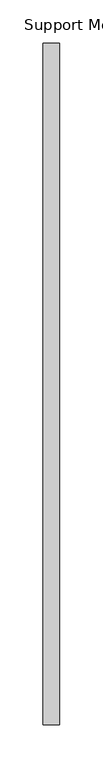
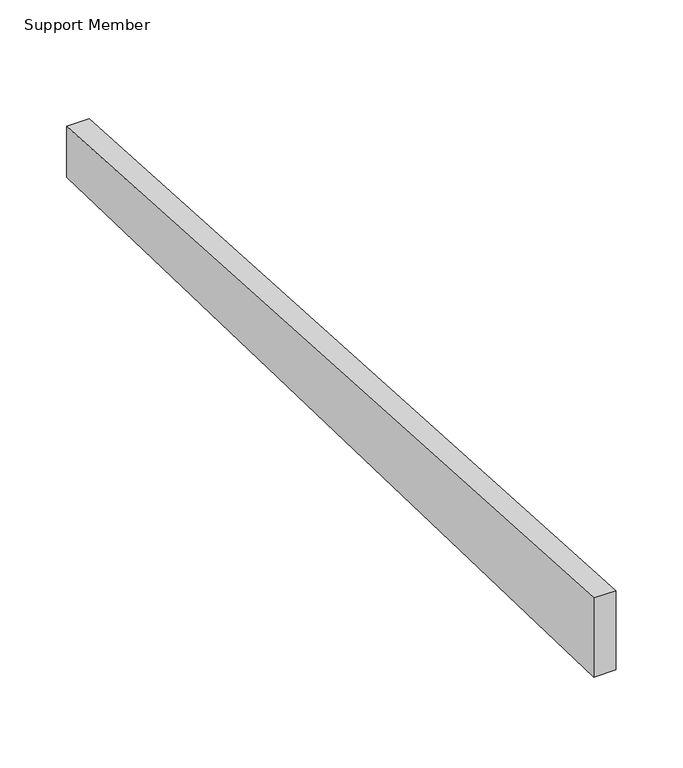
"""IFC4 building model written with IfcOpenShell, lengths in millimetres: beam geometry, Support Memeber : Support Member."""

from ifc_helpers import new_model, si_unit, point, frame, frame_2d, origin, place, context, project, spatial, polyline, circle_curve, trimmed, segment, composite_curve, outline, extrude, source, transform, mapped, element, save


def support_member_fadda9f7(model_context):
    return source(origin(), model_context, "Body", "SweptSolid", [
        extrude(outline(composite_curve([segment(polyline([(787.4, -47.5367982), (787.4, -94.0967255)]), True, "CONTINUOUS"), segment(trimmed(circle_curve(frame_2d((277.9139071, -4288.0188107)), 4224.7554409), [point((787.4, -94.0967255))], [point((0.0, -72.4141808))], True, "CARTESIAN"), True, "CONTINUOUS"), segment(polyline([(0.0, -72.4141808), (0.0, -0.1096457)]), True, "CONTINUOUS"), segment(trimmed(circle_curve(frame_2d((52.5857034, -5687.1064541)), 5687.2399241), [point((0.0, -0.1096457))], [point((787.4, -47.5367982))], False, "CARTESIAN"), True, "CONTINUOUS")], self_intersect=False)), frame((0.0, 0.0, 0.0), z_axis=(1.0, 0.0, 0.0), x_axis=(0.0, 1.0, 0.0)), (0.0, 0.0, 1.0), 19.05),
    ])


if __name__ == "__main__":
    model = new_model("IFC4")
    model_context = context("Model", 3, world=origin())
    ifc_project = project(units=[si_unit("LENGTHUNIT", "METRE", prefix="MILLI")], contexts=[model_context])
    site = spatial("IfcSite", under=ifc_project)
    building = spatial("IfcBuilding", under=site)
    placement = place(None, origin())
    support_member_shape = support_member_fadda9f7(model_context)
    element("IfcBeam", 1, ObjectType="Support Memeber : Support Member", at=placement, inside=building, context=model_context, shape_type="MappedRepresentation", body=[
        mapped(support_member_shape, transform((0.0, 0.0, 0.0), x_axis=(1.0, 0.0, 0.0), y_axis=(0.0, 1.0, 0.0), z_axis=(0.0, 0.0, 1.0))),
    ])
    save(model, "model.ifc")
